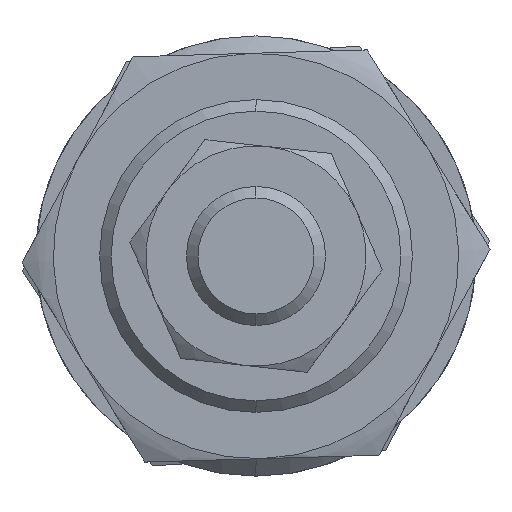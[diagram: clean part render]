
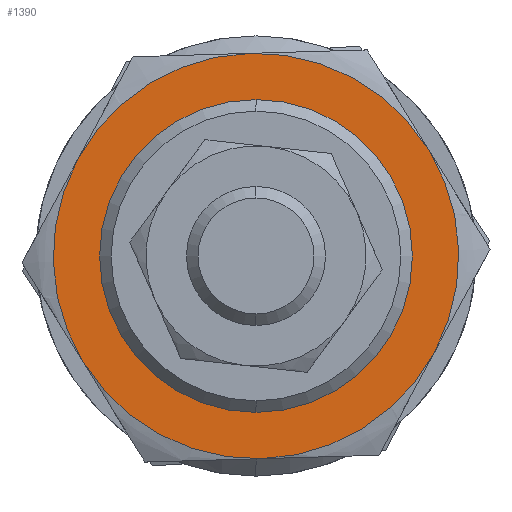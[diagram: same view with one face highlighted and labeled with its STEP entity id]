
A CAD part, left-side view. The second image highlights one B-rep face of the part: STEP entity #1390.
In plain terms, the highlighted planar face has unit normal (-1, 0, 0) as drawn and (0, 0, -1) by its records, which use the part's own axes.
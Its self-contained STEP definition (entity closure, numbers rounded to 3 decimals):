
#226 = DIRECTION ( 'NONE',  ( 0., 0., 1. ) ) ;
#244 = VERTEX_POINT ( 'NONE', #2313 ) ;
#261 = DIRECTION ( 'NONE',  ( 0., 0., 1. ) ) ;
#287 = ORIENTED_EDGE ( 'NONE', *, *, #544, .F. ) ;
#301 = ORIENTED_EDGE ( 'NONE', *, *, #3171, .F. ) ;
#346 = EDGE_CURVE ( 'NONE', #455, #606, #2099, .T. ) ;
#455 = VERTEX_POINT ( 'NONE', #2843 ) ;
#474 = DIRECTION ( 'NONE',  ( 0., 0., 1. ) ) ;
#511 = PLANE ( 'NONE',  #895 ) ;
#544 = EDGE_CURVE ( 'NONE', #1682, #3249, #1820, .T. ) ;
#557 = EDGE_CURVE ( 'NONE', #606, #2883, #1840, .T. ) ;
#606 = VERTEX_POINT ( 'NONE', #2605 ) ;
#692 = ORIENTED_EDGE ( 'NONE', *, *, #3426, .F. ) ;
#750 = DIRECTION ( 'NONE',  ( 0., 0., 1. ) ) ;
#793 = DIRECTION ( 'NONE',  ( 0., 0., 1. ) ) ;
#882 = DIRECTION ( 'NONE',  ( 1., 0., 0. ) ) ;
#895 = AXIS2_PLACEMENT_3D ( 'NONE', #2858, #261, #2602 ) ;
#911 = DIRECTION ( 'NONE',  ( 0., 0., 1. ) ) ;
#954 = DIRECTION ( 'NONE',  ( 1., 0., 0. ) ) ;
#983 = CARTESIAN_POINT ( 'NONE',  ( 0., 0., -5. ) ) ;
#993 = DIRECTION ( 'NONE',  ( 0., 0., 1. ) ) ;
#1056 = CIRCLE ( 'NONE', #3708, 12.5 ) ;
#1098 = CARTESIAN_POINT ( 'NONE',  ( -8.75, 15.155, -5. ) ) ;
#1122 = CARTESIAN_POINT ( 'NONE',  ( 8.75, 15.155, -5. ) ) ;
#1132 = CARTESIAN_POINT ( 'NONE',  ( 0., 0., -5. ) ) ;
#1154 = AXIS2_PLACEMENT_3D ( 'NONE', #983, #1788, #1309 ) ;
#1170 = DIRECTION ( 'NONE',  ( 1., 0., 0. ) ) ;
#1260 = EDGE_CURVE ( 'NONE', #2883, #3182, #2569, .T. ) ;
#1309 = DIRECTION ( 'NONE',  ( 1., 0., 0. ) ) ;
#1338 = CARTESIAN_POINT ( 'NONE',  ( 0., 0., -5. ) ) ;
#1390 = ADVANCED_FACE ( 'NONE', ( #1543, #3030 ), #511, .F. ) ;
#1438 = EDGE_LOOP ( 'NONE', ( #2016, #2528, #301, #287, #692, #2660 ) ) ;
#1458 = CIRCLE ( 'NONE', #1871, 17.5 ) ;
#1543 = FACE_BOUND ( 'NONE', #2557, .T. ) ;
#1571 = AXIS2_PLACEMENT_3D ( 'NONE', #2254, #474, #3127 ) ;
#1647 = CARTESIAN_POINT ( 'NONE',  ( -17.5, 0., -5. ) ) ;
#1652 = CIRCLE ( 'NONE', #1571, 12.5 ) ;
#1676 = CARTESIAN_POINT ( 'NONE',  ( 0., 0., -5. ) ) ;
#1682 = VERTEX_POINT ( 'NONE', #1647 ) ;
#1731 = AXIS2_PLACEMENT_3D ( 'NONE', #1338, #3377, #954 ) ;
#1788 = DIRECTION ( 'NONE',  ( 0., 0., 1. ) ) ;
#1820 = CIRCLE ( 'NONE', #3497, 17.5 ) ;
#1824 = AXIS2_PLACEMENT_3D ( 'NONE', #1132, #226, #882 ) ;
#1840 = CIRCLE ( 'NONE', #2440, 17.5 ) ;
#1871 = AXIS2_PLACEMENT_3D ( 'NONE', #3213, #793, #2641 ) ;
#2016 = ORIENTED_EDGE ( 'NONE', *, *, #557, .F. ) ;
#2099 = CIRCLE ( 'NONE', #1824, 17.5 ) ;
#2232 = CIRCLE ( 'NONE', #1154, 17.5 ) ;
#2254 = CARTESIAN_POINT ( 'NONE',  ( 0., 0., -5. ) ) ;
#2313 = CARTESIAN_POINT ( 'NONE',  ( 12.5, 0., -5. ) ) ;
#2440 = AXIS2_PLACEMENT_3D ( 'NONE', #1676, #750, #3101 ) ;
#2453 = EDGE_CURVE ( 'NONE', #2612, #244, #1056, .T. ) ;
#2528 = ORIENTED_EDGE ( 'NONE', *, *, #346, .F. ) ;
#2557 = EDGE_LOOP ( 'NONE', ( #3742, #2558 ) ) ;
#2558 = ORIENTED_EDGE ( 'NONE', *, *, #2453, .T. ) ;
#2569 = CIRCLE ( 'NONE', #1731, 17.5 ) ;
#2597 = CARTESIAN_POINT ( 'NONE',  ( 0., 0., -5. ) ) ;
#2602 = DIRECTION ( 'NONE',  ( 1., 0., 0. ) ) ;
#2605 = CARTESIAN_POINT ( 'NONE',  ( 17.5, 0., -5. ) ) ;
#2607 = CARTESIAN_POINT ( 'NONE',  ( -8.75, -15.155, -5. ) ) ;
#2612 = VERTEX_POINT ( 'NONE', #2797 ) ;
#2641 = DIRECTION ( 'NONE',  ( 1., 0., 0. ) ) ;
#2644 = EDGE_CURVE ( 'NONE', #244, #2612, #1652, .T. ) ;
#2660 = ORIENTED_EDGE ( 'NONE', *, *, #1260, .F. ) ;
#2797 = CARTESIAN_POINT ( 'NONE',  ( -12.5, 0., -5. ) ) ;
#2827 = CARTESIAN_POINT ( 'NONE',  ( 0., 0., -5. ) ) ;
#2843 = CARTESIAN_POINT ( 'NONE',  ( 8.75, -15.155, -5. ) ) ;
#2858 = CARTESIAN_POINT ( 'NONE',  ( 0., 0., -5. ) ) ;
#2883 = VERTEX_POINT ( 'NONE', #1122 ) ;
#3030 = FACE_OUTER_BOUND ( 'NONE', #1438, .T. ) ;
#3101 = DIRECTION ( 'NONE',  ( 1., 0., 0. ) ) ;
#3127 = DIRECTION ( 'NONE',  ( 1., 0., 0. ) ) ;
#3171 = EDGE_CURVE ( 'NONE', #3249, #455, #1458, .T. ) ;
#3182 = VERTEX_POINT ( 'NONE', #1098 ) ;
#3213 = CARTESIAN_POINT ( 'NONE',  ( 0., 0., -5. ) ) ;
#3249 = VERTEX_POINT ( 'NONE', #2607 ) ;
#3377 = DIRECTION ( 'NONE',  ( 0., 0., 1. ) ) ;
#3426 = EDGE_CURVE ( 'NONE', #3182, #1682, #2232, .T. ) ;
#3497 = AXIS2_PLACEMENT_3D ( 'NONE', #2597, #993, #3800 ) ;
#3708 = AXIS2_PLACEMENT_3D ( 'NONE', #2827, #911, #1170 ) ;
#3742 = ORIENTED_EDGE ( 'NONE', *, *, #2644, .T. ) ;
#3800 = DIRECTION ( 'NONE',  ( 1., 0., 0. ) ) ;
